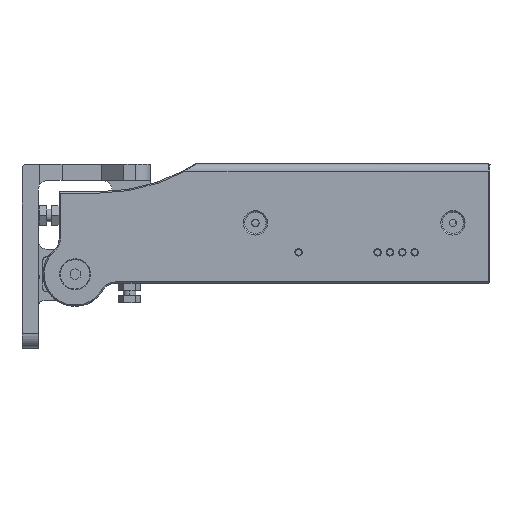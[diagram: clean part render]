
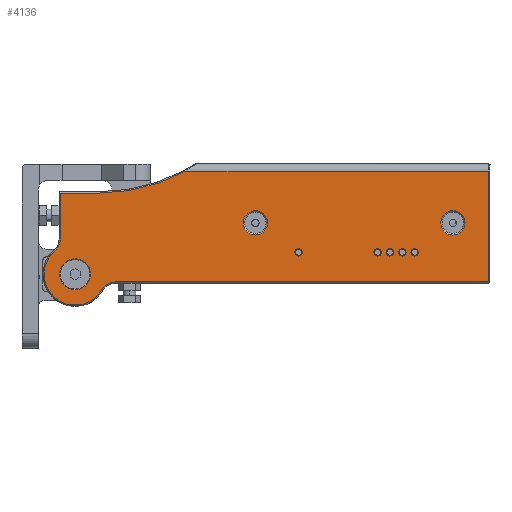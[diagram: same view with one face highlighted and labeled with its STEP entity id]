
A CAD part, front view. The second image highlights one B-rep face of the part: STEP entity #4136.
In plain terms, the highlighted planar face has unit normal (0, -1, 0).
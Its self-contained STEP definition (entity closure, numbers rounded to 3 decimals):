
#461=CARTESIAN_POINT('',(-168.,-30.25,-20.8));
#462=DIRECTION('',(0.,-1.,0.));
#463=DIRECTION('',(0.,0.,-1.));
#464=AXIS2_PLACEMENT_3D('',#461,#462,#463);
#466=CARTESIAN_POINT('',(-168.,-30.25,-20.8));
#467=DIRECTION('',(0.,-1.,0.));
#468=DIRECTION('',(0.,0.,1.));
#469=AXIS2_PLACEMENT_3D('',#466,#467,#468);
#471=CARTESIAN_POINT('',(-15.,-30.25,0.));
#472=DIRECTION('',(0.,1.,0.));
#473=DIRECTION('',(1.,0.,0.));
#474=AXIS2_PLACEMENT_3D('',#471,#472,#473);
#476=CARTESIAN_POINT('',(-15.,-30.25,0.));
#477=DIRECTION('',(0.,1.,0.));
#478=DIRECTION('',(-1.,0.,0.));
#479=AXIS2_PLACEMENT_3D('',#476,#477,#478);
#481=CARTESIAN_POINT('',(-95.,-30.25,0.));
#482=DIRECTION('',(0.,1.,0.));
#483=DIRECTION('',(-1.,0.,0.));
#484=AXIS2_PLACEMENT_3D('',#481,#482,#483);
#486=CARTESIAN_POINT('',(-95.,-30.25,0.));
#487=DIRECTION('',(0.,1.,0.));
#488=DIRECTION('',(1.,0.,0.));
#489=AXIS2_PLACEMENT_3D('',#486,#487,#488);
#491=CARTESIAN_POINT('',(-77.5,-30.25,-11.9));
#492=DIRECTION('',(0.,1.,0.));
#493=DIRECTION('',(1.,0.,0.));
#494=AXIS2_PLACEMENT_3D('',#491,#492,#493);
#496=CARTESIAN_POINT('',(-77.5,-30.25,-11.9));
#497=DIRECTION('',(0.,1.,0.));
#498=DIRECTION('',(-1.,0.,0.));
#499=AXIS2_PLACEMENT_3D('',#496,#497,#498);
#501=CARTESIAN_POINT('',(-45.5,-30.25,-11.9));
#502=DIRECTION('',(0.,1.,0.));
#503=DIRECTION('',(-1.,0.,0.));
#504=AXIS2_PLACEMENT_3D('',#501,#502,#503);
#506=CARTESIAN_POINT('',(-45.5,-30.25,-11.9));
#507=DIRECTION('',(0.,1.,0.));
#508=DIRECTION('',(1.,0.,0.));
#509=AXIS2_PLACEMENT_3D('',#506,#507,#508);
#511=CARTESIAN_POINT('',(-40.5,-30.25,-11.9));
#512=DIRECTION('',(0.,1.,0.));
#513=DIRECTION('',(-1.,0.,0.));
#514=AXIS2_PLACEMENT_3D('',#511,#512,#513);
#516=CARTESIAN_POINT('',(-40.5,-30.25,-11.9));
#517=DIRECTION('',(0.,1.,0.));
#518=DIRECTION('',(1.,0.,0.));
#519=AXIS2_PLACEMENT_3D('',#516,#517,#518);
#521=CARTESIAN_POINT('',(-35.5,-30.25,-11.9));
#522=DIRECTION('',(0.,1.,0.));
#523=DIRECTION('',(-1.,0.,0.));
#524=AXIS2_PLACEMENT_3D('',#521,#522,#523);
#526=CARTESIAN_POINT('',(-35.5,-30.25,-11.9));
#527=DIRECTION('',(0.,1.,0.));
#528=DIRECTION('',(1.,0.,0.));
#529=AXIS2_PLACEMENT_3D('',#526,#527,#528);
#531=CARTESIAN_POINT('',(-30.5,-30.25,-11.9));
#532=DIRECTION('',(0.,1.,0.));
#533=DIRECTION('',(-1.,0.,0.));
#534=AXIS2_PLACEMENT_3D('',#531,#532,#533);
#536=CARTESIAN_POINT('',(-30.5,-30.25,-11.9));
#537=DIRECTION('',(0.,1.,0.));
#538=DIRECTION('',(1.,0.,0.));
#539=AXIS2_PLACEMENT_3D('',#536,#537,#538);
#541=DIRECTION('',(0.,0.,-1.));
#542=VECTOR('',#541,44.9);
#543=CARTESIAN_POINT('',(-0.5,-30.25,
21.));
#544=LINE('',#543,#542);
#545=DIRECTION('',(1.,0.,0.));
#546=VECTOR('',#545,151.104);
#547=CARTESIAN_POINT('',(-151.604,-30.25,
-23.9));
#548=LINE('',#547,#546);
#549=CARTESIAN_POINT('',(-151.604,-30.25,-30.4));
#550=DIRECTION('',(0.,1.,0.));
#551=DIRECTION('',(-0.863,0.,0.505));
#552=AXIS2_PLACEMENT_3D('',#549,#550,#551);
#554=CARTESIAN_POINT('',(-168.,-30.25,-20.8));
#555=DIRECTION('',(0.,-1.,0.));
#556=DIRECTION('',(0.218,0.,-0.976));
#557=AXIS2_PLACEMENT_3D('',#554,#555,#556);
#559=DIRECTION('',(-1.,0.,0.));
#560=VECTOR('',#559,5.444);
#561=CARTESIAN_POINT('',(-165.278,-30.25,-33.));
#562=LINE('',#561,#560);
#563=CARTESIAN_POINT('',(-168.,-30.25,-20.8));
#564=DIRECTION('',(0.,-1.,0.));
#565=DIRECTION('',(-0.658,0.,0.753));
#566=AXIS2_PLACEMENT_3D('',#563,#564,#565);
#568=CARTESIAN_POINT('',(-180.5,-30.25,-6.491));
#569=DIRECTION('',(0.,1.,0.));
#570=DIRECTION('',(1.,0.,0.));
#571=AXIS2_PLACEMENT_3D('',#568,#569,#570);
#573=DIRECTION('',(0.,0.,-1.));
#574=VECTOR('',#573,18.567);
#575=CARTESIAN_POINT('',(-174.,-30.25,12.076));
#576=LINE('',#575,#574);
#577=DIRECTION('',(-1.,0.,0.));
#578=VECTOR('',#577,15.5);
#579=CARTESIAN_POINT('',(-158.5,-30.25,12.076));
#580=LINE('',#579,#578);
#581=CARTESIAN_POINT('',(-158.5,-30.25,86.576));
#582=DIRECTION('',(0.,1.,0.));
#583=DIRECTION('',(0.475,0.,-0.88));
#584=AXIS2_PLACEMENT_3D('',#581,#582,#583);
#586=DIRECTION('',(-1.,0.,0.));
#587=VECTOR('',#586,122.644);
#588=CARTESIAN_POINT('',(-0.5,-30.25,
21.));
#589=LINE('',#588,#587);
#1300=CARTESIAN_POINT('',(-123.144,-30.25,
21.));
#2996=CARTESIAN_POINT('',(-168.,-30.25,-27.05));
#2997=CARTESIAN_POINT('',(-168.,-30.25,-14.55));
#2998=VERTEX_POINT('',#2996);
#2999=VERTEX_POINT('',#2997);
#3104=CARTESIAN_POINT('',(-10.1,-30.25,0.));
#3105=CARTESIAN_POINT('',(-19.9,-30.25,0.));
#3106=VERTEX_POINT('',#3104);
#3107=VERTEX_POINT('',#3105);
#3112=CARTESIAN_POINT('',(-99.9,-30.25,0.));
#3113=CARTESIAN_POINT('',(-90.1,-30.25,0.));
#3114=VERTEX_POINT('',#3112);
#3115=VERTEX_POINT('',#3113);
#3140=CARTESIAN_POINT('',(-76.,-30.25,-11.9));
#3141=CARTESIAN_POINT('',(-79.,-30.25,-11.9));
#3142=VERTEX_POINT('',#3140);
#3143=VERTEX_POINT('',#3141);
#3148=CARTESIAN_POINT('',(-47.,-30.25,-11.9));
#3149=CARTESIAN_POINT('',(-44.,-30.25,-11.9));
#3150=VERTEX_POINT('',#3148);
#3151=VERTEX_POINT('',#3149);
#3156=CARTESIAN_POINT('',(-42.,-30.25,-11.9));
#3157=CARTESIAN_POINT('',(-39.,-30.25,-11.9));
#3158=VERTEX_POINT('',#3156);
#3159=VERTEX_POINT('',#3157);
#3164=CARTESIAN_POINT('',(-37.,-30.25,-11.9));
#3165=CARTESIAN_POINT('',(-34.,-30.25,-11.9));
#3166=VERTEX_POINT('',#3164);
#3167=VERTEX_POINT('',#3165);
#3172=CARTESIAN_POINT('',(-32.,-30.25,-11.9));
#3173=CARTESIAN_POINT('',(-29.,-30.25,-11.9));
#3174=VERTEX_POINT('',#3172);
#3175=VERTEX_POINT('',#3173);
#3463=VERTEX_POINT('',#1300);
#3465=CARTESIAN_POINT('',(-158.5,-30.25,12.076));
#3466=VERTEX_POINT('',#3465);
#3471=CARTESIAN_POINT('',(-174.,-30.25,12.076));
#3472=VERTEX_POINT('',#3471);
#3473=CARTESIAN_POINT('',(-157.213,-30.25,-27.116));
#3474=CARTESIAN_POINT('',(-151.604,-30.25,-23.9));
#3475=VERTEX_POINT('',#3473);
#3476=VERTEX_POINT('',#3474);
#3481=CARTESIAN_POINT('',(-165.278,-30.25,-33.));
#3482=VERTEX_POINT('',#3481);
#3485=CARTESIAN_POINT('',(-170.722,-30.25,-33.));
#3486=VERTEX_POINT('',#3485);
#3489=CARTESIAN_POINT('',(-174.,-30.25,
-6.491));
#3490=VERTEX_POINT('',#3489);
#3493=CARTESIAN_POINT('',(-176.224,-30.25,-11.386));
#3494=VERTEX_POINT('',#3493);
#3555=CARTESIAN_POINT('',(-0.5,-30.25,21.));
#3556=VERTEX_POINT('',#3555);
#3558=CARTESIAN_POINT('',(-0.5,-30.25,-23.9));
#3560=VERTEX_POINT('',#3558);
#4060=CARTESIAN_POINT('',(0.,-30.25,24.));
#4061=DIRECTION('',(0.,-1.,0.));
#4062=DIRECTION('',(0.,0.,-1.));
#4063=AXIS2_PLACEMENT_3D('',#4060,#4061,#4062);
#4064=PLANE('',#4063);
#4066=ORIENTED_EDGE('',*,*,#4065,.T.);
#4068=ORIENTED_EDGE('',*,*,#4067,.F.);
#4070=ORIENTED_EDGE('',*,*,#4069,.F.);
#4072=ORIENTED_EDGE('',*,*,#4071,.F.);
#4074=ORIENTED_EDGE('',*,*,#4073,.T.);
#4076=ORIENTED_EDGE('',*,*,#4075,.F.);
#4078=ORIENTED_EDGE('',*,*,#4077,.F.);
#4080=ORIENTED_EDGE('',*,*,#4079,.F.);
#4082=ORIENTED_EDGE('',*,*,#4081,.F.);
#4084=ORIENTED_EDGE('',*,*,#4083,.F.);
#4086=ORIENTED_EDGE('',*,*,#4085,.F.);
#4087=EDGE_LOOP('',(#4066,#4068,#4070,#4072,#4074,#4076,#4078,#4080,#4082,#4084,
#4086));
#4088=FACE_OUTER_BOUND('',#4087,.F.);
#4089=ORIENTED_EDGE('',*,*,#4050,.F.);
#4091=ORIENTED_EDGE('',*,*,#4090,.F.);
#4092=EDGE_LOOP('',(#4089,#4091));
#4093=FACE_BOUND('',#4092,.F.);
#4095=ORIENTED_EDGE('',*,*,#4094,.F.);
#4097=ORIENTED_EDGE('',*,*,#4096,.F.);
#4098=EDGE_LOOP('',(#4095,#4097));
#4099=FACE_BOUND('',#4098,.F.);
#4101=ORIENTED_EDGE('',*,*,#4100,.F.);
#4103=ORIENTED_EDGE('',*,*,#4102,.F.);
#4104=EDGE_LOOP('',(#4101,#4103));
#4105=FACE_BOUND('',#4104,.F.);
#4107=ORIENTED_EDGE('',*,*,#4106,.F.);
#4109=ORIENTED_EDGE('',*,*,#4108,.F.);
#4110=EDGE_LOOP('',(#4107,#4109));
#4111=FACE_BOUND('',#4110,.F.);
#4113=ORIENTED_EDGE('',*,*,#4112,.F.);
#4115=ORIENTED_EDGE('',*,*,#4114,.F.);
#4116=EDGE_LOOP('',(#4113,#4115));
#4117=FACE_BOUND('',#4116,.F.);
#4119=ORIENTED_EDGE('',*,*,#4118,.F.);
#4121=ORIENTED_EDGE('',*,*,#4120,.F.);
#4122=EDGE_LOOP('',(#4119,#4121));
#4123=FACE_BOUND('',#4122,.F.);
#4125=ORIENTED_EDGE('',*,*,#4124,.F.);
#4127=ORIENTED_EDGE('',*,*,#4126,.F.);
#4128=EDGE_LOOP('',(#4125,#4127));
#4129=FACE_BOUND('',#4128,.F.);
#4131=ORIENTED_EDGE('',*,*,#4130,.T.);
#4133=ORIENTED_EDGE('',*,*,#4132,.T.);
#4134=EDGE_LOOP('',(#4131,#4133));
#4135=FACE_BOUND('',#4134,.F.);
#465=CIRCLE('',#464,6.25);
#470=CIRCLE('',#469,6.25);
#475=CIRCLE('',#474,4.9);
#480=CIRCLE('',#479,4.9);
#485=CIRCLE('',#484,4.9);
#490=CIRCLE('',#489,4.9);
#495=CIRCLE('',#494,1.5);
#500=CIRCLE('',#499,1.5);
#505=CIRCLE('',#504,1.5);
#510=CIRCLE('',#509,1.5);
#515=CIRCLE('',#514,1.5);
#520=CIRCLE('',#519,1.5);
#525=CIRCLE('',#524,1.5);
#530=CIRCLE('',#529,1.5);
#535=CIRCLE('',#534,1.5);
#540=CIRCLE('',#539,1.5);
#553=CIRCLE('',#552,6.5);
#558=CIRCLE('',#557,12.5);
#567=CIRCLE('',#566,12.5);
#572=CIRCLE('',#571,6.5);
#585=CIRCLE('',#584,74.5);
#4050=EDGE_CURVE('',#3106,#3107,#475,.T.);
#4065=EDGE_CURVE('',#3556,#3560,#544,.T.);
#4067=EDGE_CURVE('',#3476,#3560,#548,.T.);
#4069=EDGE_CURVE('',#3475,#3476,#553,.T.);
#4071=EDGE_CURVE('',#3482,#3475,#558,.T.);
#4073=EDGE_CURVE('',#3482,#3486,#562,.T.);
#4075=EDGE_CURVE('',#3494,#3486,#567,.T.);
#4077=EDGE_CURVE('',#3490,#3494,#572,.T.);
#4079=EDGE_CURVE('',#3472,#3490,#576,.T.);
#4081=EDGE_CURVE('',#3466,#3472,#580,.T.);
#4083=EDGE_CURVE('',#3463,#3466,#585,.T.);
#4085=EDGE_CURVE('',#3556,#3463,#589,.T.);
#4090=EDGE_CURVE('',#3107,#3106,#480,.T.);
#4094=EDGE_CURVE('',#3114,#3115,#485,.T.);
#4096=EDGE_CURVE('',#3115,#3114,#490,.T.);
#4100=EDGE_CURVE('',#3142,#3143,#495,.T.);
#4102=EDGE_CURVE('',#3143,#3142,#500,.T.);
#4106=EDGE_CURVE('',#3150,#3151,#505,.T.);
#4108=EDGE_CURVE('',#3151,#3150,#510,.T.);
#4112=EDGE_CURVE('',#3158,#3159,#515,.T.);
#4114=EDGE_CURVE('',#3159,#3158,#520,.T.);
#4118=EDGE_CURVE('',#3166,#3167,#525,.T.);
#4120=EDGE_CURVE('',#3167,#3166,#530,.T.);
#4124=EDGE_CURVE('',#3174,#3175,#535,.T.);
#4126=EDGE_CURVE('',#3175,#3174,#540,.T.);
#4130=EDGE_CURVE('',#2998,#2999,#465,.T.);
#4132=EDGE_CURVE('',#2999,#2998,#470,.T.);
#4136=ADVANCED_FACE('',(#4088,#4093,#4099,#4105,#4111,#4117,#4123,#4129,#4135),
#4064,.T.);
